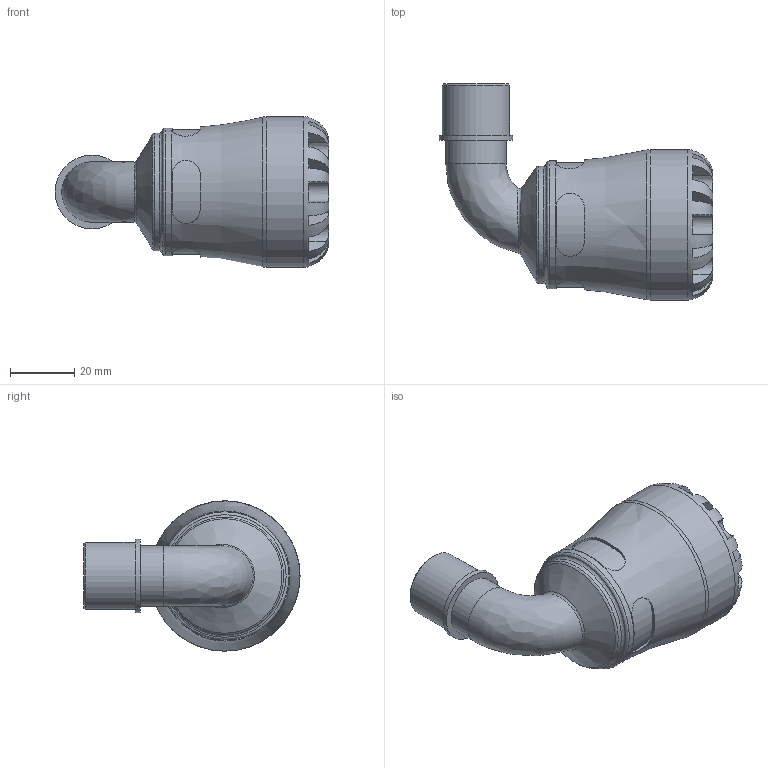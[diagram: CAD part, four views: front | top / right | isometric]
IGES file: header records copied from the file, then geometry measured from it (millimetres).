
Global section: file name: 108500025005_198500025005.ipt; native system: Autodesk Inventor 2015; preprocessor: unknown; author: KIM; date: 20190127.091408; units: millimetre
Bounding box: 85.53 x 67.5 x 47 mm (x, y, z)
Volume: 62548.1 mm3; surface area: 20885.8 mm2
Topology: 1 solids, 1 shells, 110 faces, 278 edges, 176 vertices
Faces by surface type: plane 61, revolution 26, cylinder 18, bspline 4, cone 1
Full cylindrical faces by diameter (mm): 18.86 x1, 20.955 x1, 23.05 x1, 36.66 x1, 39.95 x1, 47 x1
